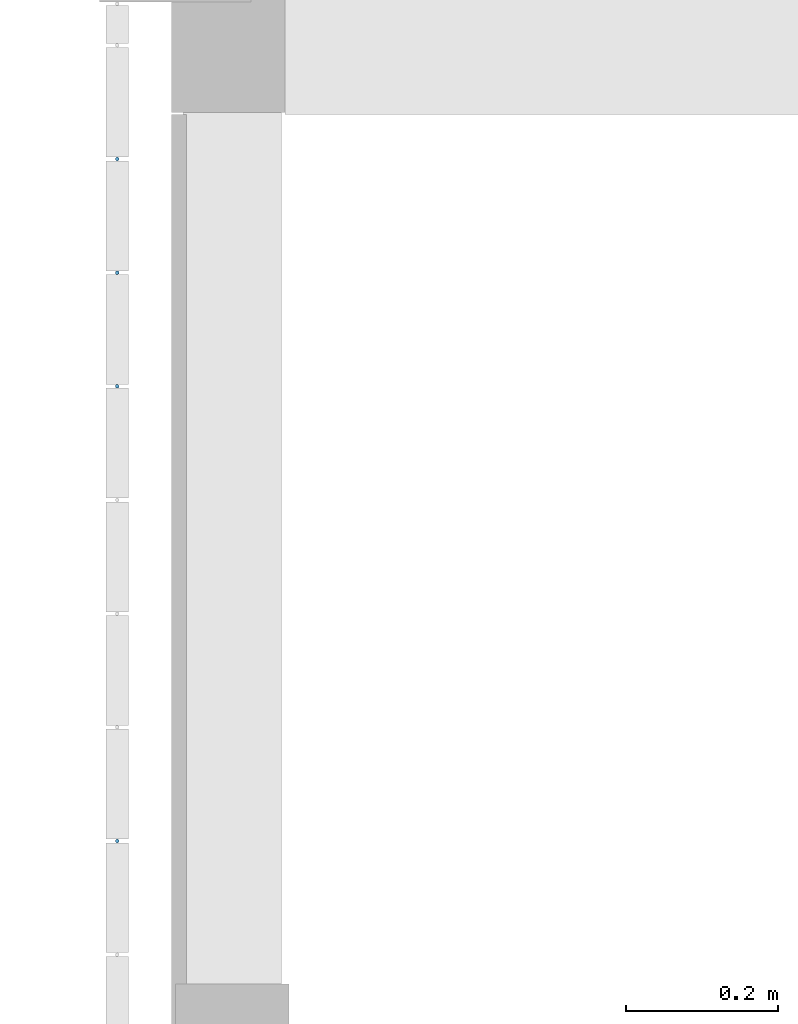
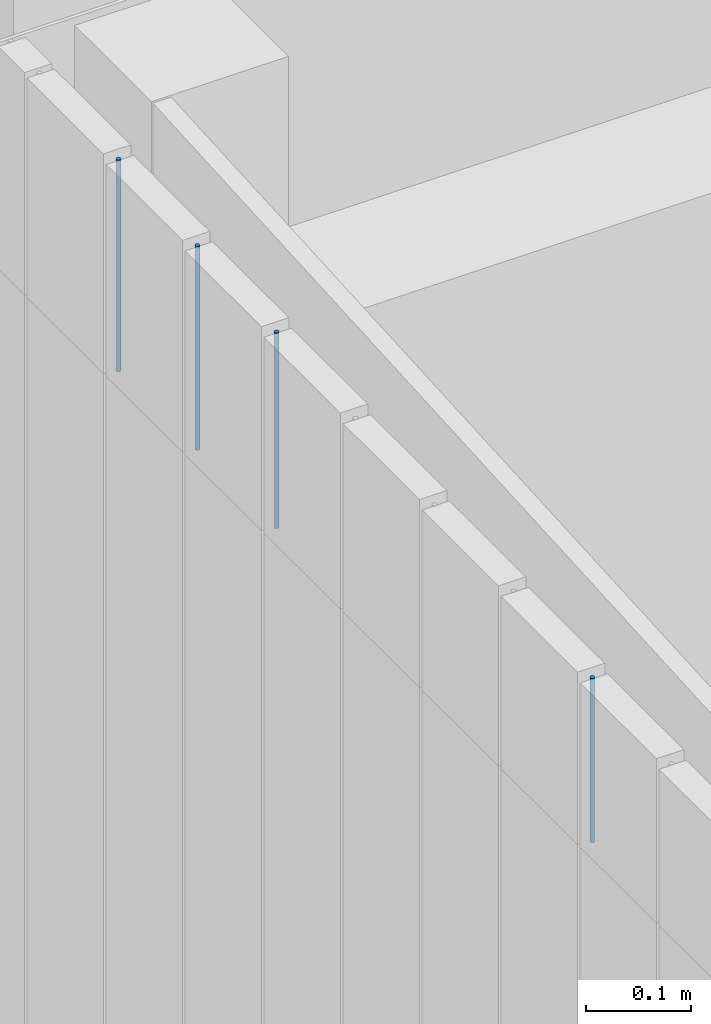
# One storey, part 58 of 81: 4 members, 1 element without a shape of its own.
"""IFC2X3 building model written with IfcOpenShell, lengths in metres."""

from ifc_helpers import new_model, entity, si_unit, converted_unit, derived_unit, direction, frame, frame_2d, origin, place, context, subcontext, project, spatial, circle, extrude, source, transform, mapped, material, type_object, type_shapes, element, aggregate, save


model = new_model("IFC2X3")

# Units and contexts
model_context = context("Model", 3, precision=1e-05, world=origin(), true_north=direction((6.12303176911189e-17, 1.0)))
body_context = subcontext(model_context, "Body", "Model", "MODEL_VIEW")
ifc_project = project(units=[si_unit("LENGTHUNIT", "METRE"), si_unit("AREAUNIT", "SQUARE_METRE"), si_unit("VOLUMEUNIT", "CUBIC_METRE"), converted_unit("PLANEANGLEUNIT", "DEGREE", entity("IfcRatioMeasure", 0.0174532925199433), si_unit("PLANEANGLEUNIT", "RADIAN"), dimensions=[0, 0, 0, 0, 0, 0, 0]), si_unit("MASSUNIT", "GRAM", prefix="KILO"), derived_unit("MASSDENSITYUNIT", [(si_unit("MASSUNIT", "GRAM", prefix="KILO"), 1), (si_unit("LENGTHUNIT", "METRE"), -3)]), derived_unit("MOMENTOFINERTIAUNIT", [(si_unit("LENGTHUNIT", "METRE"), 4)]), si_unit("TIMEUNIT", "SECOND"), si_unit("FREQUENCYUNIT", "HERTZ"), si_unit("THERMODYNAMICTEMPERATUREUNIT", "DEGREE_CELSIUS"), derived_unit("THERMALTRANSMITTANCEUNIT", [(si_unit("MASSUNIT", "GRAM", prefix="KILO"), 1), (si_unit("THERMODYNAMICTEMPERATUREUNIT", "KELVIN"), -1), (si_unit("TIMEUNIT", "SECOND"), -3)]), derived_unit("VOLUMETRICFLOWRATEUNIT", [(si_unit("LENGTHUNIT", "METRE"), 3), (si_unit("TIMEUNIT", "SECOND"), -1)]), si_unit("ELECTRICCURRENTUNIT", "AMPERE"), si_unit("ELECTRICVOLTAGEUNIT", "VOLT"), si_unit("POWERUNIT", "WATT"), si_unit("FORCEUNIT", "NEWTON", prefix="KILO"), si_unit("ILLUMINANCEUNIT", "LUX"), si_unit("LUMINOUSFLUXUNIT", "LUMEN"), si_unit("LUMINOUSINTENSITYUNIT", "CANDELA"), derived_unit("USERDEFINED", [(si_unit("MASSUNIT", "GRAM", prefix="KILO"), -1), (si_unit("LENGTHUNIT", "METRE"), -2), (si_unit("TIMEUNIT", "SECOND"), 3), (si_unit("LUMINOUSFLUXUNIT", "LUMEN"), 1)]), derived_unit("LINEARVELOCITYUNIT", [(si_unit("LENGTHUNIT", "METRE"), 1), (si_unit("TIMEUNIT", "SECOND"), -1)]), si_unit("PRESSUREUNIT", "PASCAL"), derived_unit("USERDEFINED", [(si_unit("LENGTHUNIT", "METRE"), -2), (si_unit("MASSUNIT", "GRAM", prefix="KILO"), 1), (si_unit("TIMEUNIT", "SECOND"), -2)]), derived_unit("LINEARFORCEUNIT", [(si_unit("MASSUNIT", "GRAM", prefix="KILO"), 1), (si_unit("LENGTHUNIT", "METRE"), 1), (si_unit("TIMEUNIT", "SECOND"), -2), (si_unit("LENGTHUNIT", "METRE"), -1)]), derived_unit("PLANARFORCEUNIT", [(si_unit("MASSUNIT", "GRAM", prefix="KILO"), 1), (si_unit("LENGTHUNIT", "METRE"), 1), (si_unit("TIMEUNIT", "SECOND"), -2), (si_unit("LENGTHUNIT", "METRE"), -2)])], contexts=[model_context])

# Site, building, storey
site_placement = place(None, origin())
site = spatial("IfcSite", under=ifc_project, at=site_placement, Name="Surface", CompositionType="ELEMENT")
building_placement = place(site_placement, origin())
building = spatial("IfcBuilding", under=site, at=building_placement, CompositionType="ELEMENT")
storey_placement = place(building_placement, origin())
storey = spatial("IfcBuildingStorey", under=building, at=storey_placement, Name="01 RDC", CompositionType="ELEMENT", Elevation=-1.94916083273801e-14)

# Curtain wall, members
curtain_wall_type = type_object("IfcCurtainWallType", Name="Mur-rideau:1m x 2m", PredefinedType="NOTDEFINED")
curtain_wall_placement = place(storey_placement, origin())
curtain_wall = element("IfcCurtainWall", 1, at=curtain_wall_placement, inside=storey, type_object=curtain_wall_type, Name="Mur-rideau:1m x 2m", ObjectType="Mur-rideau:1m x 2m")
ifc_material = material(Name="Aluminium - Vert")
member_type_1 = type_object("IfcMemberType", Name="Meneau circulaire:R-30 mm", PredefinedType="MULLION", material=ifc_material)
shared_shape_1 = source(origin(), body_context, "Body", "SweptSolid", [
    extrude(circle(Radius=0.0025, at=frame_2d((-1.10093551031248e-28, 3.70967571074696e-16), x_axis=(1.0, 0.0))), frame((0.0, 0.0, -0.227208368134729), z_axis=(0.0, 0.0, 1.0), x_axis=(-1.0, 0.0, 0.0)), (0.0, 0.0, 1.0), 0.227208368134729),
])
type_shapes(member_type_1, [shared_shape_1])
member_1_placement = place(storey_placement, frame((5.45983615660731, -4.20721095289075, 2.3), z_axis=(0.0, 0.0, -1.0), x_axis=(0.0, 1.0, 0.0)))
member_1 = element("IfcMember", 2, at=member_1_placement, type_object=member_type_1, material=ifc_material, Name="Meneau circulaire:R-30 mm", ObjectType="Meneau circulaire:R-30 mm", context=body_context, shape_type="MappedRepresentation", body=[
    mapped(shared_shape_1, transform((0.0, 0.0, 0.0), scale=1.0)),
])
member_type_2 = type_object("IfcMemberType", Name="Meneau circulaire:R-30 mm", PredefinedType="MULLION", material=ifc_material)
shared_shape_2 = source(origin(), body_context, "Body", "SweptSolid", [
    extrude(circle(Radius=0.0025, at=frame_2d((2.64371857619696e-19, 3.85955581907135e-16), x_axis=(1.0, 0.0))), frame((0.0, 0.0, -0.236382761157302), z_axis=(0.0, 0.0, 1.0), x_axis=(-1.0, 0.0, 0.0)), (0.0, 0.0, 1.0), 0.236382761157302),
])
type_shapes(member_type_2, [shared_shape_2])
member_2_placement = place(storey_placement, frame((5.45983615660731, -4.05721095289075, 2.3), z_axis=(0.0, 0.0, -1.0), x_axis=(0.0, 1.0, 0.0)))
member_2 = element("IfcMember", 3, at=member_2_placement, type_object=member_type_2, material=ifc_material, Name="Meneau circulaire:R-30 mm", ObjectType="Meneau circulaire:R-30 mm", context=body_context, shape_type="MappedRepresentation", body=[
    mapped(shared_shape_2, transform((0.0, 0.0, 0.0), scale=1.0)),
])
member_type_3 = type_object("IfcMemberType", Name="Meneau circulaire:R-30 mm", PredefinedType="MULLION", material=ifc_material)
shared_shape_3 = source(origin(), body_context, "Body", "SweptSolid", [
    extrude(circle(Radius=0.0025, at=frame_2d((-1.28477441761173e-28, 4.00679220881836e-16), x_axis=(1.0, 0.0))), frame((0.0, 0.0, -0.245557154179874), z_axis=(0.0, 0.0, 1.0), x_axis=(-1.0, 0.0, 0.0)), (0.0, 0.0, 1.0), 0.245557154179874),
])
type_shapes(member_type_3, [shared_shape_3])
member_3_placement = place(storey_placement, frame((5.45983615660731, -3.90721095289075, 2.3), z_axis=(0.0, 0.0, -1.0), x_axis=(0.0, 1.0, 0.0)))
member_3 = element("IfcMember", 4, at=member_3_placement, type_object=member_type_3, material=ifc_material, Name="Meneau circulaire:R-30 mm", ObjectType="Meneau circulaire:R-30 mm", context=body_context, shape_type="MappedRepresentation", body=[
    mapped(shared_shape_3, transform((0.0, 0.0, 0.0), scale=1.0)),
])
member_type_4 = type_object("IfcMemberType", Name="Meneau circulaire:R-30 mm", PredefinedType="MULLION", material=ifc_material)
shared_shape_4 = source(origin(), body_context, "Body", "SweptSolid", [
    extrude(circle(Radius=0.0025, at=frame_2d((-7.75621939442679e-29, 3.11306267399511e-16), x_axis=(1.0, 0.0))), frame((0.0, 0.0, -0.190510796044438), z_axis=(0.0, 0.0, 1.0), x_axis=(-1.0, 0.0, 0.0)), (0.0, 0.0, 1.0), 0.190510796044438),
])
type_shapes(member_type_4, [shared_shape_4])
member_4_placement = place(storey_placement, frame((5.45983615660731, -4.80721095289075, 2.3), z_axis=(0.0, 0.0, -1.0), x_axis=(0.0, 1.0, 0.0)))
member_4 = element("IfcMember", 5, at=member_4_placement, type_object=member_type_4, material=ifc_material, Name="Meneau circulaire:R-30 mm", ObjectType="Meneau circulaire:R-30 mm", context=body_context, shape_type="MappedRepresentation", body=[
    mapped(shared_shape_4, transform((0.0, 0.0, 0.0), scale=1.0)),
])
aggregate(curtain_wall, [member_1, member_2, member_3, member_4])

save(model, "model.ifc")
